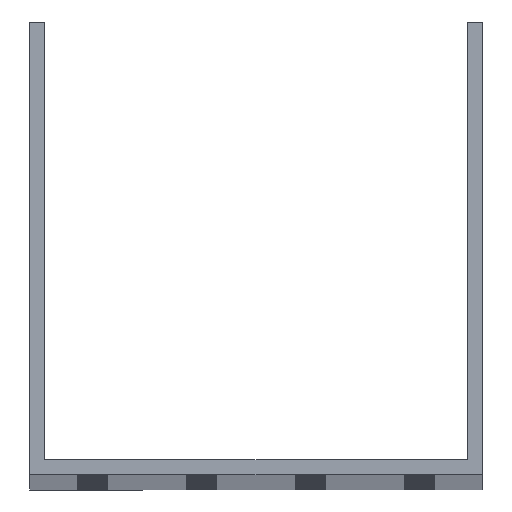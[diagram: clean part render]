
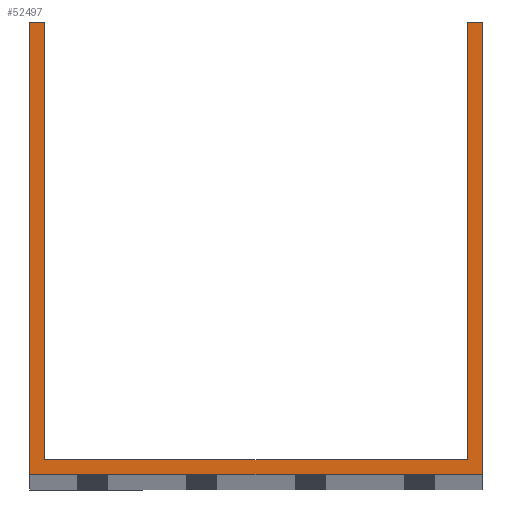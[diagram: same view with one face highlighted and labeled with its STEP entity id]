
A CAD part, top view. The second image highlights one B-rep face of the part: STEP entity #52497.
In plain terms, the highlighted planar face has unit normal (0, 0, 1).
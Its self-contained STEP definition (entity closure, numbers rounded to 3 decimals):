
#107 = ORIENTED_EDGE ( 'NONE', *, *, #47076, .T. ) ;
#1814 = DIRECTION ( 'NONE',  ( 1., 0., 0. ) ) ;
#2801 = EDGE_CURVE ( 'NONE', #53874, #23062, #53548, .T. ) ;
#4041 = VERTEX_POINT ( 'NONE', #29352 ) ;
#4652 = VECTOR ( 'NONE', #40589, 1000. ) ;
#6793 = PLANE ( 'NONE',  #19561 ) ;
#8742 = LINE ( 'NONE', #58114, #14804 ) ;
#8836 = CARTESIAN_POINT ( 'NONE',  ( 52., 0., 1000. ) ) ;
#9241 = CARTESIAN_POINT ( 'NONE',  ( 48.5, 104., 1000. ) ) ;
#9872 = DIRECTION ( 'NONE',  ( 0., -1., 0. ) ) ;
#10155 = ORIENTED_EDGE ( 'NONE', *, *, #2801, .F. ) ;
#11667 = VERTEX_POINT ( 'NONE', #52569 ) ;
#11917 = EDGE_CURVE ( 'NONE', #4041, #64491, #8742, .T. ) ;
#12697 = CARTESIAN_POINT ( 'NONE',  ( -52., 3.5, 1000. ) ) ;
#14490 = VECTOR ( 'NONE', #32910, 1000. ) ;
#14804 = VECTOR ( 'NONE', #43533, 1000. ) ;
#15443 = ORIENTED_EDGE ( 'NONE', *, *, #11917, .F. ) ;
#15589 = EDGE_CURVE ( 'NONE', #11667, #64491, #27020, .T. ) ;
#16439 = VECTOR ( 'NONE', #29654, 1000. ) ;
#19065 = CARTESIAN_POINT ( 'NONE',  ( 52., 104., 1000. ) ) ;
#19561 = AXIS2_PLACEMENT_3D ( 'NONE', #32290, #37916, #1814 ) ;
#19837 = ORIENTED_EDGE ( 'NONE', *, *, #36476, .T. ) ;
#20791 = CARTESIAN_POINT ( 'NONE',  ( -52., 104., 1000. ) ) ;
#21065 = DIRECTION ( 'NONE',  ( -1., 0., 0. ) ) ;
#23062 = VERTEX_POINT ( 'NONE', #65510 ) ;
#24411 = VERTEX_POINT ( 'NONE', #8836 ) ;
#25707 = CARTESIAN_POINT ( 'NONE',  ( -52., 0., 1000. ) ) ;
#27020 = LINE ( 'NONE', #46569, #30187 ) ;
#27657 = VECTOR ( 'NONE', #39273, 1000. ) ;
#28945 = EDGE_CURVE ( 'NONE', #23062, #4041, #58088, .T. ) ;
#29352 = CARTESIAN_POINT ( 'NONE',  ( 48.5, 3.5, 1000. ) ) ;
#29654 = DIRECTION ( 'NONE',  ( 0., -1., 0. ) ) ;
#30187 = VECTOR ( 'NONE', #21065, 1000. ) ;
#31064 = LINE ( 'NONE', #20791, #55179 ) ;
#31872 = VECTOR ( 'NONE', #61165, 1000. ) ;
#32290 = CARTESIAN_POINT ( 'NONE',  ( 0., 0., 1000. ) ) ;
#32910 = DIRECTION ( 'NONE',  ( 1., 0., 0. ) ) ;
#32948 = CARTESIAN_POINT ( 'NONE',  ( -52., 0., 1000. ) ) ;
#33813 = ORIENTED_EDGE ( 'NONE', *, *, #15589, .T. ) ;
#34013 = EDGE_CURVE ( 'NONE', #47236, #24411, #46239, .T. ) ;
#36476 = EDGE_CURVE ( 'NONE', #24411, #11667, #49857, .T. ) ;
#37916 = DIRECTION ( 'NONE',  ( 0., 0., 1. ) ) ;
#38004 = CARTESIAN_POINT ( 'NONE',  ( -48.5, 104., 1000. ) ) ;
#39273 = DIRECTION ( 'NONE',  ( 0., 1., 0. ) ) ;
#40589 = DIRECTION ( 'NONE',  ( -1., 0., 0. ) ) ;
#41912 = CARTESIAN_POINT ( 'NONE',  ( -52., 104., 1000. ) ) ;
#43233 = VERTEX_POINT ( 'NONE', #41912 ) ;
#43533 = DIRECTION ( 'NONE',  ( 0., 1., 0. ) ) ;
#45016 = ORIENTED_EDGE ( 'NONE', *, *, #34013, .T. ) ;
#45346 = EDGE_LOOP ( 'NONE', ( #10155, #54366, #107, #45016, #19837, #33813, #15443, #49203 ) ) ;
#46239 = LINE ( 'NONE', #25707, #31872 ) ;
#46569 = CARTESIAN_POINT ( 'NONE',  ( -52., 104., 1000. ) ) ;
#47076 = EDGE_CURVE ( 'NONE', #43233, #47236, #31064, .T. ) ;
#47236 = VERTEX_POINT ( 'NONE', #32948 ) ;
#49203 = ORIENTED_EDGE ( 'NONE', *, *, #28945, .F. ) ;
#49857 = LINE ( 'NONE', #19065, #27657 ) ;
#51257 = EDGE_CURVE ( 'NONE', #53874, #43233, #60143, .T. ) ;
#52178 = FACE_OUTER_BOUND ( 'NONE', #45346, .T. ) ;
#52497 = ADVANCED_FACE ( 'NONE', ( #52178 ), #6793, .T. ) ;
#52569 = CARTESIAN_POINT ( 'NONE',  ( 52., 104., 1000. ) ) ;
#53548 = LINE ( 'NONE', #64149, #16439 ) ;
#53874 = VERTEX_POINT ( 'NONE', #38004 ) ;
#54366 = ORIENTED_EDGE ( 'NONE', *, *, #51257, .T. ) ;
#55179 = VECTOR ( 'NONE', #9872, 1000. ) ;
#55500 = CARTESIAN_POINT ( 'NONE',  ( -52., 104., 1000. ) ) ;
#58088 = LINE ( 'NONE', #12697, #14490 ) ;
#58114 = CARTESIAN_POINT ( 'NONE',  ( 48.5, 104., 1000. ) ) ;
#60143 = LINE ( 'NONE', #55500, #4652 ) ;
#61165 = DIRECTION ( 'NONE',  ( 1., 0., 0. ) ) ;
#64149 = CARTESIAN_POINT ( 'NONE',  ( -48.5, 104., 1000. ) ) ;
#64491 = VERTEX_POINT ( 'NONE', #9241 ) ;
#65510 = CARTESIAN_POINT ( 'NONE',  ( -48.5, 3.5, 1000. ) ) ;
